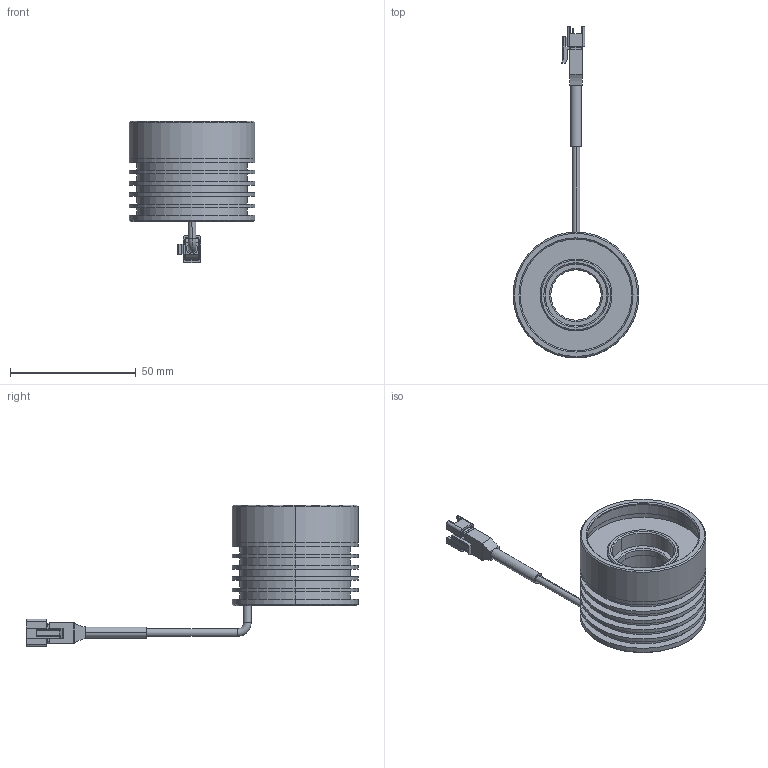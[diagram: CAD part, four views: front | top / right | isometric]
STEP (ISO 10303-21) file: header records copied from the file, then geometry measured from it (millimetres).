
FILE_DESCRIPTION (( 'STEP AP203' ), '1' );
FILE_NAME ('VOR-5026W-TCH65 _ Drawing _ L1564A-A00101.STEP', '2025-10-21T02:30:49', ( '' ), ( '' ), 'SwSTEP 2.0', 'SolidWorks 2020', '' );
FILE_SCHEMA (( 'CONFIG_CONTROL_DESIGN' ));
Length unit declared in the file: millimetre
Products named in the file (5): VHAT-5026W-TCH65 _ TMR1033D301A _ 基座 _L1564A-M00101; VHAT-5026W-TCH65 _ TMR1033D302A _ 轉接環 _L1564A-M00201; VOR-5026W-TCH65 _ Drawing _ L1564A-A00101; JST SMR-03V-B + 3mm 24AWG CABLE; VHAT-5026W-TCH65 _ TMR1033D303A _ 外框圈 _L1564A-M00301
Assembly tree (4 placements, depth 2):
  VOR-5026W-TCH65 _ Drawing _ L1564A-A00101
    VHAT-5026W-TCH65 _ TMR1033D302A _ 轉接環 _L1564A-M00201
    VHAT-5026W-TCH65 _ TMR1033D303A _ 外框圈 _L1564A-M00301
    VHAT-5026W-TCH65 _ TMR1033D301A _ 基座 _L1564A-M00101
    JST SMR-03V-B + 3mm 24AWG CABLE
Bounding box: 50 x 132 x 56.42 mm (x, y, z)
Volume: 43289.2 mm3; surface area: 24670.5 mm2
Topology: 5 solids, 5 shells, 284 faces, 677 edges, 434 vertices
Faces by surface type: plane 155, cylinder 105, cone 14, torus 6, bspline 4
Entity records: 8822 total; most frequent: CARTESIAN_POINT 1650, DIRECTION 1407, ORIENTED_EDGE 1354, EDGE_CURVE 677, AXIS2_PLACEMENT_3D 479, LINE 449, VECTOR 449, VERTEX_POINT 434
